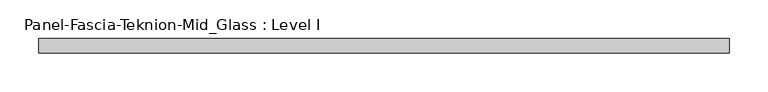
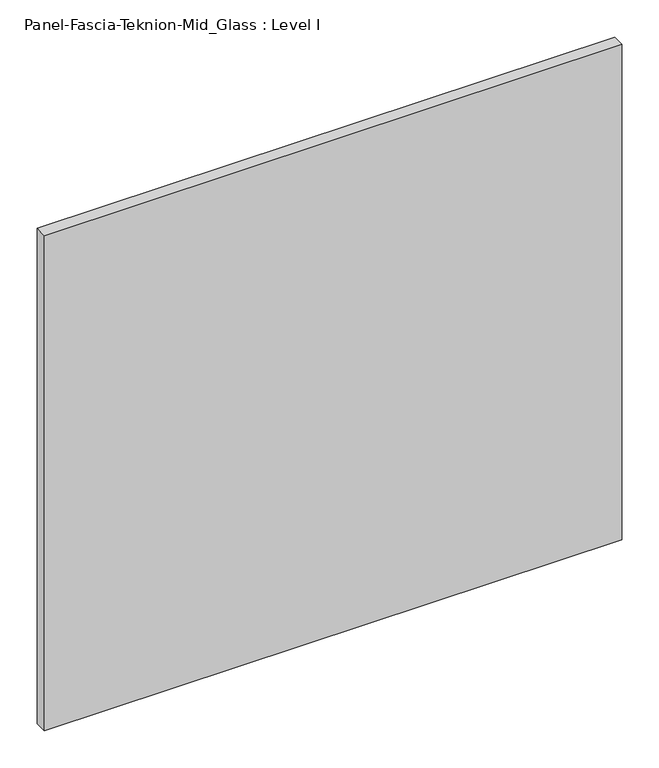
"""IFC4 building model written with IfcOpenShell, lengths in millimetres: proxy geometry, Panel-Fascia-Teknion-Mid_Glass : Level I."""

import ifcopenshell
import ifcopenshell.guid

model = None  # the IFC model being written
_history = None  # IfcOwnerHistory: only IFC2X3 demands one
_inside = {}  # id of a spatial element -> (the spatial element, [elements in it])
_under = {}  # id of a project, library or spatial element -> (it, [spatial elements below it])
_declared = {}  # id of a project -> (the project, [libraries it declares])
_typed = {}  # id of a type object -> (the type object, [elements of that type])
_made_of = {}  # id of a material, layer set ... -> (it, [elements and type objects made of it])


def new_model(schema):
    """Start an empty IFC model of exactly this schema.

    Asked for "IFC4X3", IfcOpenShell would pick the latest addendum, in which some entities
    have other attributes; the version numbers below select the first issue.
    IFC2X3 requires an IfcOwnerHistory on every rooted entity: one is made here for all.
    """
    global model, _history
    if schema == "IFC4X3":
        model = ifcopenshell.file(schema_version=(4, 3, 0, 0))
    else:
        model = ifcopenshell.file(schema=schema)
    _inside.clear()
    _under.clear()
    _declared.clear()
    _typed.clear()
    _made_of.clear()
    _history = None
    if model.schema == "IFC2X3":
        org = make("IfcOrganization", Name="unknown")
        user = make(
            "IfcPersonAndOrganization",
            ThePerson=make("IfcPerson", FamilyName="unknown"),
            TheOrganization=org,
        )
        app = make(
            "IfcApplication",
            ApplicationDeveloper=org,
            Version="unknown",
            ApplicationFullName="unknown",
            ApplicationIdentifier="unknown",
        )
        _history = make(
            "IfcOwnerHistory",
            OwningUser=user,
            OwningApplication=app,
            ChangeAction="ADDED",
            CreationDate=0,
        )
    return model


def make(cls, **values):
    """One entity of the class cls with the attributes given. An attribute that is None is left unset."""
    return model.create_entity(
        cls, **{name: value for name, value in values.items() if value is not None}
    )


def rooted(cls, **values):
    """An entity with a GlobalId (a new one), such as an element, a storey or a relation."""
    return make(cls, GlobalId=ifcopenshell.guid.new(), OwnerHistory=_history, **values)


def si_unit(unit_type, name, prefix=None):
    """IfcSIUnit, for example si_unit("LENGTHUNIT", "METRE", prefix="MILLI")."""
    return make("IfcSIUnit", UnitType=unit_type, Prefix=prefix, Name=name)


def assignment(units):
    """IfcUnitAssignment: the units of a project."""
    return None if units is None else make("IfcUnitAssignment", Units=units)


def point(xyz):
    """IfcCartesianPoint."""
    return None if xyz is None else make("IfcCartesianPoint", Coordinates=xyz)


def direction(xyz):
    """IfcDirection."""
    return None if xyz is None else make("IfcDirection", DirectionRatios=xyz)


def frame(location, z_axis=None, x_axis=None):
    """IfcAxis2Placement3D, a coordinate frame: its origin and axes. An axis left out is left unset."""
    return make(
        "IfcAxis2Placement3D",
        Location=point(location),
        Axis=direction(z_axis),
        RefDirection=direction(x_axis),
    )


def origin():
    """The frame at (0, 0, 0) with its axes left unset."""
    return frame((0.0, 0.0, 0.0))


def place(relative_to, where):
    """IfcLocalPlacement: puts the frame where relative to a parent placement (None: the world)."""
    return make(
        "IfcLocalPlacement", PlacementRelTo=relative_to, RelativePlacement=where
    )


def context(
    kind, dimensions, precision=None, world=None, true_north=None, identifier=None
):
    """IfcGeometricRepresentationContext, for example the 3D "Model" context."""
    return make(
        "IfcGeometricRepresentationContext",
        ContextIdentifier=identifier,
        ContextType=kind,
        CoordinateSpaceDimension=dimensions,
        Precision=precision,
        WorldCoordinateSystem=world,
        TrueNorth=true_north,
    )


def project(units=None, contexts=None):
    """IfcProject with its units and contexts."""
    return rooted(
        "IfcProject",
        Name="project",
        RepresentationContexts=contexts,
        UnitsInContext=assignment(units),
    )


def spatial(cls, under=None, at=None, **own):
    """A site, building, storey or space (cls), placed at a placement, below another one or the project."""
    s = rooted(cls, ObjectPlacement=at, **own)
    if under is not None:
        _under.setdefault(under.id(), (under, []))[1].append(s)
    return s


def polyline(points):
    """IfcPolyline through the points."""
    return make("IfcPolyline", Points=[point(p) for p in points])


def outline(outer, holes=None, kind="AREA"):
    """IfcArbitraryClosedProfileDef: a profile drawn as a closed curve; with holes, ...WithVoids."""
    if holes is None:
        return make("IfcArbitraryClosedProfileDef", ProfileType=kind, OuterCurve=outer)
    return make(
        "IfcArbitraryProfileDefWithVoids",
        ProfileType=kind,
        OuterCurve=outer,
        InnerCurves=holes,
    )


def extrude(swept, where, along, depth):
    """IfcExtrudedAreaSolid: the profile swept, set in the frame where, extruded along a direction by depth."""
    return make(
        "IfcExtrudedAreaSolid",
        SweptArea=swept,
        Position=where,
        ExtrudedDirection=direction(along),
        Depth=depth,
    )


def shape(context_of_items, identifier, shape_type, items):
    """IfcShapeRepresentation: the items that make up one representation, for example the "Body"."""
    return make(
        "IfcShapeRepresentation",
        ContextOfItems=context_of_items,
        RepresentationIdentifier=identifier,
        RepresentationType=shape_type,
        Items=items,
    )


def source(mapping_origin, context_of_items, identifier, shape_type, items):
    """IfcRepresentationMap: a shape defined once, which mapped items show again and again."""
    return make(
        "IfcRepresentationMap",
        MappingOrigin=mapping_origin,
        MappedRepresentation=shape(context_of_items, identifier, shape_type, items),
    )


def transform(
    local_origin,
    x_axis=None,
    y_axis=None,
    z_axis=None,
    scale=None,
    scale2=None,
    scale3=None,
    uniform=True,
):
    """IfcCartesianTransformationOperator3D, or its non-uniform kind. x_axis, y_axis, z_axis: its Axis1, 2, 3."""
    if uniform:
        return make(
            "IfcCartesianTransformationOperator3D",
            Axis1=direction(x_axis),
            Axis2=direction(y_axis),
            LocalOrigin=point(local_origin),
            Scale=scale,
            Axis3=direction(z_axis),
        )
    return make(
        "IfcCartesianTransformationOperator3DnonUniform",
        Axis1=direction(x_axis),
        Axis2=direction(y_axis),
        LocalOrigin=point(local_origin),
        Scale=scale,
        Axis3=direction(z_axis),
        Scale2=scale2,
        Scale3=scale3,
    )


def mapped(mapping_source, mapping_target):
    """IfcMappedItem: shows the shape of a source again, moved by a transform."""
    return make(
        "IfcMappedItem", MappingSource=mapping_source, MappingTarget=mapping_target
    )


def made_of(thing, what):
    """Note that an element or type object is made of a material, layer set ...; save() writes the relation."""
    if what is not None:
        _made_of.setdefault(what.id(), (what, []))[1].append(thing)
    return thing


def element(
    cls,
    number,
    at=None,
    inside=None,
    cuts=None,
    type_object=None,
    material=None,
    context=None,
    identifier="Body",
    shape_type=None,
    held_by="IfcProductDefinitionShape",
    body=None,
    shapes=None,
    **own,
):
    """One element of the class cls, such as IfcWall. Its Tag is "e" and its number.

    at: its placement. inside: the storey or other place that contains it. cuts: it is an
    opening in that element (IfcRelVoidsElement). A single representation is given by context,
    identifier, shape_type and body (its items); several are given by shapes. held_by: the class
    of the entity that holds the representations. save() writes the other relations.
    """
    e = rooted(cls, Tag="e%d" % number, ObjectPlacement=at, **own)
    if body is not None:
        shapes = [shape(context, identifier, shape_type, body)]
    if shapes is not None:
        e.Representation = make(held_by, Representations=shapes)
    if inside is not None:
        _inside.setdefault(inside.id(), (inside, []))[1].append(e)
    if cuts is not None:
        rooted(
            "IfcRelVoidsElement", RelatingBuildingElement=cuts, RelatedOpeningElement=e
        )
    if type_object is not None:
        _typed.setdefault(type_object.id(), (type_object, []))[1].append(e)
    return made_of(e, material)


def aggregate(whole, parts):
    """IfcRelAggregates: a whole, such as a stair, and the parts it consists of."""
    return rooted("IfcRelAggregates", RelatingObject=whole, RelatedObjects=parts)


def save(model, path):
    """Write the relations noted so far, then the file.

    IfcRelAggregates (storeys below a building ...), IfcRelContainedInSpatialStructure (elements
    in a storey), IfcRelDefinesByType, IfcRelAssociatesMaterial and IfcRelDeclares: one each for
    every whole, place, type object, material and project.
    """
    for whole, parts in _under.values():
        aggregate(whole, parts)
    for where, things in _inside.values():
        rooted(
            "IfcRelContainedInSpatialStructure",
            RelatedElements=things,
            RelatingStructure=where,
        )
    for kind, things in _typed.values():
        rooted("IfcRelDefinesByType", RelatedObjects=things, RelatingType=kind)
    for what, things in _made_of.values():
        rooted("IfcRelAssociatesMaterial", RelatedObjects=things, RelatingMaterial=what)
    for by, libraries in _declared.values():
        rooted("IfcRelDeclares", RelatingContext=by, RelatedDefinitions=libraries)
    model.write(path)


def panel_fascia_teknion_mid_glass_level_i_feadc1fd(model_context):
    return source(origin(), model_context, "Body", "SweptSolid", [
        extrude(outline(polyline([(447.0356344, -9.525), (-447.0356344, -9.525), (-447.0356344, 9.525), (447.0356344, 9.525), (447.0356344, -9.525)])), frame((0.0, 0.0, 3.175), z_axis=(0.0, 0.0, 1.0), x_axis=(1.0, 0.0, 0.0)), (0.0, 0.0, 1.0), 810.768),
    ])


if __name__ == "__main__":
    model = new_model("IFC4")
    model_context = context("Model", 3, world=origin())
    ifc_project = project(units=[si_unit("LENGTHUNIT", "METRE", prefix="MILLI")], contexts=[model_context])
    site = spatial("IfcSite", under=ifc_project)
    building = spatial("IfcBuilding", under=site)
    placement = place(None, origin())
    panel_fascia_teknion_mid_glass_level_i_shape = panel_fascia_teknion_mid_glass_level_i_feadc1fd(model_context)
    element("IfcBuildingElementProxy", 1, Name="Panel-Fascia-Teknion-Mid_Glass : Level I", ObjectType="Panel-Fascia-Teknion-Mid_Glass : Level I", at=placement, inside=building, context=model_context, shape_type="MappedRepresentation", body=[
        mapped(panel_fascia_teknion_mid_glass_level_i_shape, transform((0.0, 0.0, 0.0), x_axis=(1.0, 0.0, 0.0), y_axis=(0.0, 1.0, 0.0), z_axis=(0.0, 0.0, 1.0))),
    ])
    save(model, "model.ifc")
